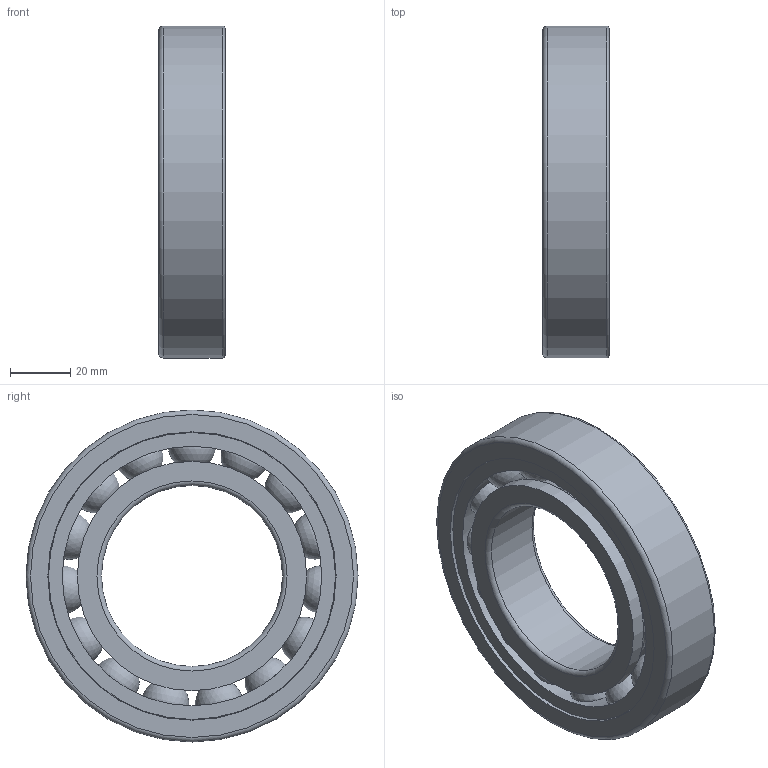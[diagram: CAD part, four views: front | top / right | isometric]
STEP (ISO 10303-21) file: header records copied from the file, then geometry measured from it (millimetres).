
FILE_DESCRIPTION(/* description */ (''),/* implementation_level */ '2;1');
FILE_NAME(/* name */ 'S_6212_TA.step',/* time_stamp */ '2013-03-06T14:49:26+01:00',/* author */ ('Marian'),/* organization */ ('GMN'),/* preprocessor_version */ 'ST-DEVELOPER v11',/* originating_system */ 'SIEMENS UGS NX 6.0',/* authorisation */ '');
FILE_SCHEMA (('CONFIG_CONTROL_DESIGN'));
Length unit declared in the file: millimetre
Products named in the file (1): S_6212_TA
Bounding box: 22 x 110 x 110 mm (x, y, z)
Volume: 111347.2 mm3; surface area: 54261.6 mm2
Topology: 18 solids, 18 shells, 50 faces, 124 edges, 80 vertices
Faces by surface type: cylinder 22, sphere 15, torus 6, plane 6, cone 1
Full cylindrical faces by diameter (mm): 16.075 x15, 60 x1, 76 x2, 85.995 x1, 95.1 x1, 95.5 x1, 110 x1
Entity records: 1608 total; most frequent: CARTESIAN_POINT 676, DIRECTION 142, FACE_BOUND 115, EDGE_LOOP 100, ORIENTED_EDGE 100, AXIS2_PLACEMENT_3D 71, VERTEX_POINT 65, EDGE_CURVE 50
